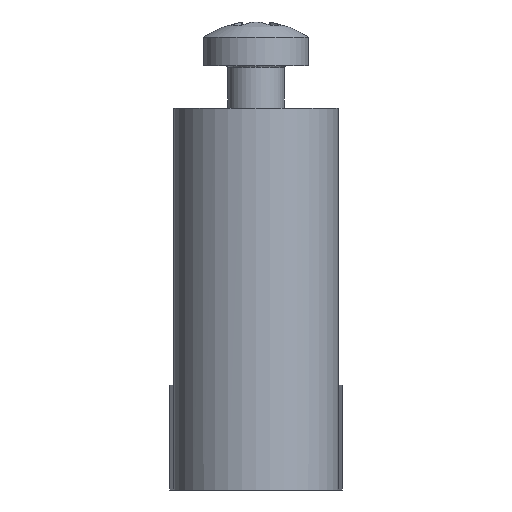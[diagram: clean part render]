
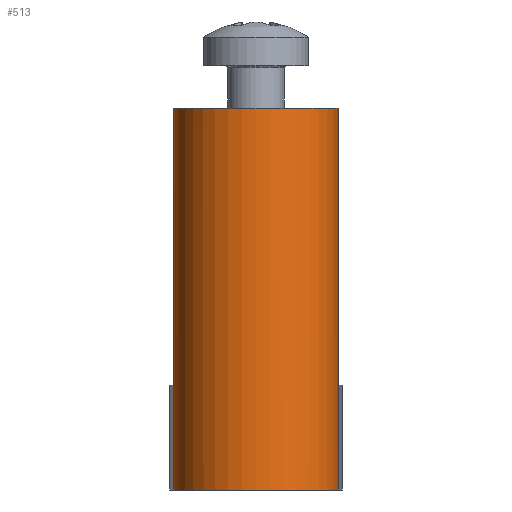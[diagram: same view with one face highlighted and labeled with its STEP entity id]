
A CAD part, left-side view. The second image highlights one B-rep face of the part: STEP entity #513.
In plain terms, the highlighted cylindrical face has radius 4.4 mm (diameter 8.8 mm), a full revolution.
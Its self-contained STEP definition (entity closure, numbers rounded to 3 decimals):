
#43 = EDGE_CURVE('',#44,#44,#46,.T.);
#44 = VERTEX_POINT('',#45);
#45 = CARTESIAN_POINT('',(4.4,0.,20.4));
#46 = CIRCLE('',#47,4.4);
#47 = AXIS2_PLACEMENT_3D('',#48,#49,#50);
#48 = CARTESIAN_POINT('',(0.,0.,20.4));
#49 = DIRECTION('',(0.,0.,-1.));
#50 = DIRECTION('',(1.,0.,0.));
#141 = EDGE_CURVE('',#142,#144,#146,.T.);
#142 = VERTEX_POINT('',#143);
#143 = CARTESIAN_POINT('',(-0.076,4.399,0.));
#144 = VERTEX_POINT('',#145);
#145 = CARTESIAN_POINT('',(-0.076,4.399,5.6));
#146 = LINE('',#147,#148);
#147 = CARTESIAN_POINT('',(-0.076,4.399,0.));
#148 = VECTOR('',#149,1.);
#149 = DIRECTION('',(0.,0.,1.));
#181 = EDGE_CURVE('',#142,#182,#184,.T.);
#182 = VERTEX_POINT('',#183);
#183 = CARTESIAN_POINT('',(-0.076,-4.399,0.));
#184 = CIRCLE('',#185,4.4);
#185 = AXIS2_PLACEMENT_3D('',#186,#187,#188);
#186 = CARTESIAN_POINT('',(0.,0.,0.));
#187 = DIRECTION('',(0.,0.,1.));
#188 = DIRECTION('',(1.,0.,0.));
#247 = EDGE_CURVE('',#182,#248,#250,.T.);
#248 = VERTEX_POINT('',#249);
#249 = CARTESIAN_POINT('',(-0.076,-4.399,5.6));
#250 = LINE('',#251,#252);
#251 = CARTESIAN_POINT('',(-0.076,-4.399,0.));
#252 = VECTOR('',#253,1.);
#253 = DIRECTION('',(0.,0.,1.));
#297 = EDGE_CURVE('',#144,#298,#300,.T.);
#298 = VERTEX_POINT('',#299);
#299 = CARTESIAN_POINT('',(4.4,0.,5.6));
#300 = CIRCLE('',#301,4.4);
#301 = AXIS2_PLACEMENT_3D('',#302,#303,#304);
#302 = CARTESIAN_POINT('',(0.,0.,5.6));
#303 = DIRECTION('',(0.,0.,-1.));
#304 = DIRECTION('',(1.,0.,0.));
#306 = EDGE_CURVE('',#298,#248,#307,.T.);
#307 = CIRCLE('',#308,4.4);
#308 = AXIS2_PLACEMENT_3D('',#309,#310,#311);
#309 = CARTESIAN_POINT('',(0.,0.,5.6));
#310 = DIRECTION('',(0.,0.,-1.));
#311 = DIRECTION('',(1.,0.,0.));
#513 = ADVANCED_FACE('',(#514),#528,.T.);
#514 = FACE_BOUND('',#515,.F.);
#515 = EDGE_LOOP('',(#516,#517,#518,#519,#520,#525,#526,#527));
#516 = ORIENTED_EDGE('',*,*,#247,.F.);
#517 = ORIENTED_EDGE('',*,*,#181,.F.);
#518 = ORIENTED_EDGE('',*,*,#141,.T.);
#519 = ORIENTED_EDGE('',*,*,#297,.T.);
#520 = ORIENTED_EDGE('',*,*,#521,.F.);
#521 = EDGE_CURVE('',#44,#298,#522,.T.);
#522 = B_SPLINE_CURVE_WITH_KNOTS('',1,(#523,#524),.UNSPECIFIED.,.F.,.F.,
  (2,2),(-20.4,-5.6),.PIECEWISE_BEZIER_KNOTS.);
#523 = CARTESIAN_POINT('',(4.4,0.,20.4));
#524 = CARTESIAN_POINT('',(4.4,0.,5.6));
#525 = ORIENTED_EDGE('',*,*,#43,.F.);
#526 = ORIENTED_EDGE('',*,*,#521,.T.);
#527 = ORIENTED_EDGE('',*,*,#306,.T.);
#528 = CYLINDRICAL_SURFACE('',#529,4.4);
#529 = AXIS2_PLACEMENT_3D('',#530,#531,#532);
#530 = CARTESIAN_POINT('',(0.,0.,0.));
#531 = DIRECTION('',(-0.,-0.,-1.));
#532 = DIRECTION('',(1.,0.,0.));
